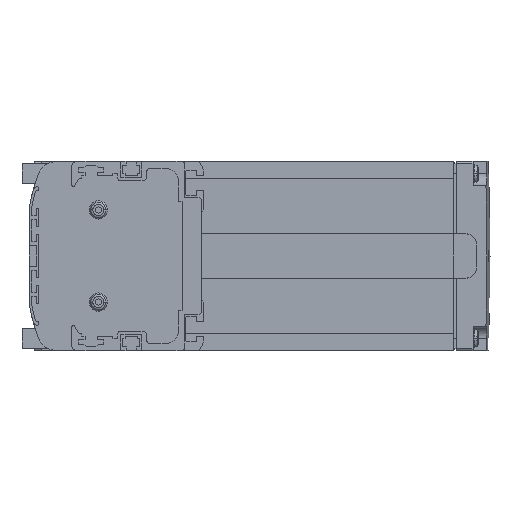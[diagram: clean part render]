
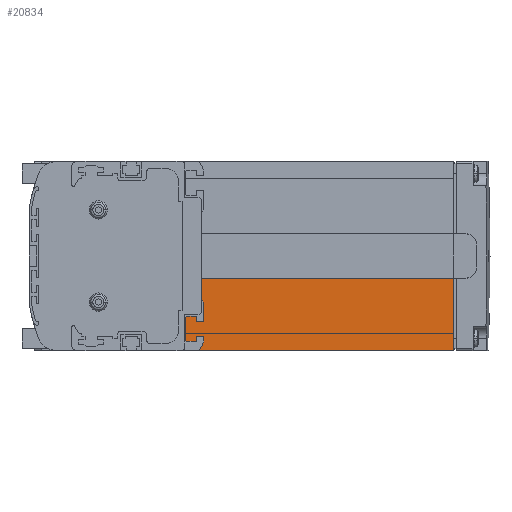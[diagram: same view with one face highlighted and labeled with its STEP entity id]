
A CAD part, left-side view. The second image highlights one B-rep face of the part: STEP entity #20834.
In plain terms, the highlighted planar face has unit normal (-1, 0, 0).
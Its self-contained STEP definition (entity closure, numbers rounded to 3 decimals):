
#332=DIRECTION('',(0.,0.,1.));
#333=VECTOR('',#332,29.9);
#334=CARTESIAN_POINT('',(3.,-103.,-39.));
#335=LINE('',#334,#333);
#578=DIRECTION('',(0.,1.,0.));
#579=VECTOR('',#578,112.);
#580=CARTESIAN_POINT('',(3.,-103.,-39.));
#581=LINE('',#580,#579);
#2845=DIRECTION('',(0.,0.,1.));
#2846=VECTOR('',#2845,13.9);
#2847=CARTESIAN_POINT('',(3.,1.,-23.));
#2848=LINE('',#2847,#2846);
#4443=DIRECTION('',(0.,1.,0.));
#4444=VECTOR('',#4443,104.);
#4445=CARTESIAN_POINT('',(3.,-103.,-9.1));
#4446=LINE('',#4445,#4444);
#12538=CARTESIAN_POINT('',(3.,2.,-23.));
#12539=DIRECTION('',(-1.,0.,0.));
#12540=DIRECTION('',(0.,0.,-1.));
#12541=AXIS2_PLACEMENT_3D('',#12538,#12539,#12540);
#12551=DIRECTION('',(0.,1.,0.));
#12552=VECTOR('',#12551,6.);
#12553=CARTESIAN_POINT('',(3.,2.,-24.));
#12554=LINE('',#12553,#12552);
#12555=DIRECTION('',(0.,0.,-1.));
#12556=VECTOR('',#12555,14.);
#12557=CARTESIAN_POINT('',(3.,8.,-24.));
#12558=LINE('',#12557,#12556);
#12563=CARTESIAN_POINT('',(3.,9.,-38.));
#12564=DIRECTION('',(-1.,0.,0.));
#12565=DIRECTION('',(0.,0.,-1.));
#12566=AXIS2_PLACEMENT_3D('',#12563,#12564,#12565);
#16471=CARTESIAN_POINT('',(3.,-103.,-39.));
#16472=VERTEX_POINT('',#16471);
#16473=CARTESIAN_POINT('',(3.,-103.,-9.1));
#16474=VERTEX_POINT('',#16473);
#19780=CARTESIAN_POINT('',(3.,1.,-23.));
#19781=CARTESIAN_POINT('',(3.,1.,-9.1));
#19782=VERTEX_POINT('',#19780);
#19783=VERTEX_POINT('',#19781);
#19828=CARTESIAN_POINT('',(3.,2.,-24.));
#19829=VERTEX_POINT('',#19828);
#19830=CARTESIAN_POINT('',(3.,8.,-24.));
#19831=VERTEX_POINT('',#19830);
#19832=CARTESIAN_POINT('',(3.,8.,-38.));
#19833=VERTEX_POINT('',#19832);
#19834=CARTESIAN_POINT('',(3.,9.,-39.));
#19835=VERTEX_POINT('',#19834);
#20812=CARTESIAN_POINT('',(3.,48.25,0.));
#20813=DIRECTION('',(1.,0.,0.));
#20814=DIRECTION('',(0.,1.,0.));
#20815=AXIS2_PLACEMENT_3D('',#20812,#20813,#20814);
#20816=PLANE('',#20815);
#20818=ORIENTED_EDGE('',*,*,#20817,.T.);
#20820=ORIENTED_EDGE('',*,*,#20819,.F.);
#20821=ORIENTED_EDGE('',*,*,#20368,.F.);
#20823=ORIENTED_EDGE('',*,*,#20822,.T.);
#20825=ORIENTED_EDGE('',*,*,#20824,.T.);
#20827=ORIENTED_EDGE('',*,*,#20826,.F.);
#20829=ORIENTED_EDGE('',*,*,#20828,.F.);
#20831=ORIENTED_EDGE('',*,*,#20830,.T.);
#20832=EDGE_LOOP('',(#20818,#20820,#20821,#20823,#20825,#20827,#20829,#20831));
#20833=FACE_OUTER_BOUND('',#20832,.F.);
#20834=ADVANCED_FACE('',(#20833),#20816,.F.);
#12542=CIRCLE('',#12541,1.);
#12567=CIRCLE('',#12566,1.);
#20368=EDGE_CURVE('',#16472,#16474,#335,.T.);
#20817=EDGE_CURVE('',#19782,#19783,#2848,.T.);
#20819=EDGE_CURVE('',#16474,#19783,#4446,.T.);
#20822=EDGE_CURVE('',#16472,#19835,#581,.T.);
#20824=EDGE_CURVE('',#19835,#19833,#12567,.T.);
#20826=EDGE_CURVE('',#19831,#19833,#12558,.T.);
#20828=EDGE_CURVE('',#19829,#19831,#12554,.T.);
#20830=EDGE_CURVE('',#19829,#19782,#12542,.T.);
